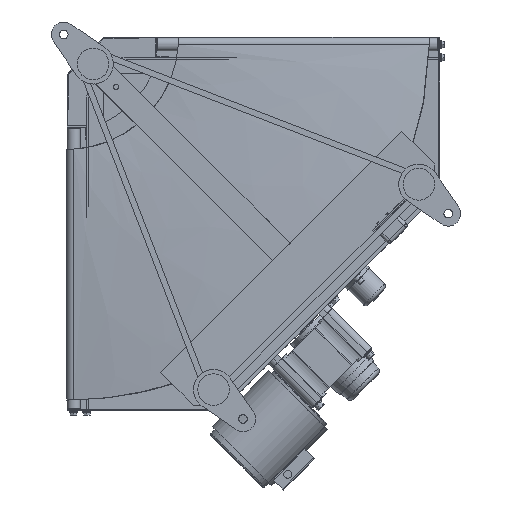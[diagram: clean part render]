
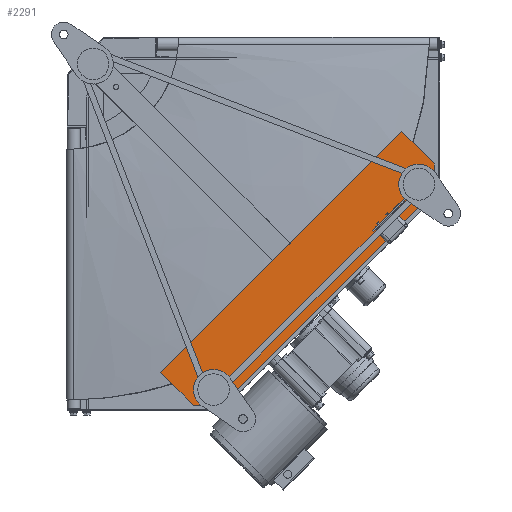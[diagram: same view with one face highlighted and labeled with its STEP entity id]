
A CAD part, front view. The second image highlights one B-rep face of the part: STEP entity #2291.
In plain terms, the highlighted planar face has unit normal (0, -1, 0).
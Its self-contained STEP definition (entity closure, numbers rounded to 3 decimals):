
#2291=ADVANCED_FACE('',(#9495),#9494,.F.);
#9494=PLANE('',#19631);
#9495=FACE_OUTER_BOUND('',#19632,.T.);
#19628=CARTESIAN_POINT('',(131.775,-167.5,-566.847));
#19629=DIRECTION('',(0.,1.,0.));
#19630=DIRECTION('',(0.,0.,1.));
#19631=AXIS2_PLACEMENT_3D('',#19628,#19629,#19630);
#19632=EDGE_LOOP('',(#25682,#25683,#25684,#25685,#25686,#25687));
#25682=ORIENTED_EDGE('',*,*,#29512,.F.);
#25683=ORIENTED_EDGE('',*,*,#29501,.F.);
#25684=ORIENTED_EDGE('',*,*,#29510,.F.);
#25685=ORIENTED_EDGE('',*,*,#29518,.F.);
#25686=ORIENTED_EDGE('',*,*,#29516,.F.);
#25687=ORIENTED_EDGE('',*,*,#29514,.F.);
#29501=EDGE_CURVE('',#41355,#41356,#41357,.T.);
#29510=EDGE_CURVE('',#41417,#41355,#41418,.T.);
#29512=EDGE_CURVE('',#41356,#41430,#41431,.T.);
#29514=EDGE_CURVE('',#41430,#41443,#41444,.T.);
#29516=EDGE_CURVE('',#41443,#41456,#41457,.T.);
#29518=EDGE_CURVE('',#41456,#41417,#41469,.T.);
#41355=VERTEX_POINT('',#56735);
#41356=VERTEX_POINT('',#56736);
#41357=LINE('',#56737,#56738);
#41417=VERTEX_POINT('',#56770);
#41418=LINE('',#56771,#56772);
#41430=VERTEX_POINT('',#56777);
#41431=LINE('',#56778,#56779);
#41443=VERTEX_POINT('',#56784);
#41444=LINE('',#56785,#56786);
#41456=VERTEX_POINT('',#56791);
#41457=LINE('',#56792,#56793);
#41469=LINE('',#56798,#56799);
#56735=CARTESIAN_POINT('',(507.349,-167.5,-141.775));
#56736=CARTESIAN_POINT('',(556.847,-167.5,-191.272));
#56737=CARTESIAN_POINT('',(507.349,-167.5,-141.775));
#56738=VECTOR('',#56739,70.);
#56739=DIRECTION('',(0.707,0.,-0.707));
#56770=CARTESIAN_POINT('',(141.775,-167.5,-507.349));
#56771=CARTESIAN_POINT('',(141.775,-167.5,-507.349));
#56772=VECTOR('',#56773,517.);
#56773=DIRECTION('',(0.707,0.,0.707));
#56777=CARTESIAN_POINT('',(556.847,-167.5,-233.699));
#56778=CARTESIAN_POINT('',(556.847,-167.5,-191.272));
#56779=VECTOR('',#56780,42.426);
#56780=DIRECTION('',(0.,0.,-1.));
#56784=CARTESIAN_POINT('',(233.699,-167.5,-556.847));
#56785=CARTESIAN_POINT('',(556.847,-167.5,-233.699));
#56786=VECTOR('',#56787,457.);
#56787=DIRECTION('',(-0.707,0.,-0.707));
#56791=CARTESIAN_POINT('',(191.272,-167.5,-556.847));
#56792=CARTESIAN_POINT('',(233.699,-167.5,-556.847));
#56793=VECTOR('',#56794,42.426);
#56794=DIRECTION('',(-1.,0.,0.));
#56798=CARTESIAN_POINT('',(191.272,-167.5,-556.847));
#56799=VECTOR('',#56800,70.);
#56800=DIRECTION('',(-0.707,0.,0.707));
